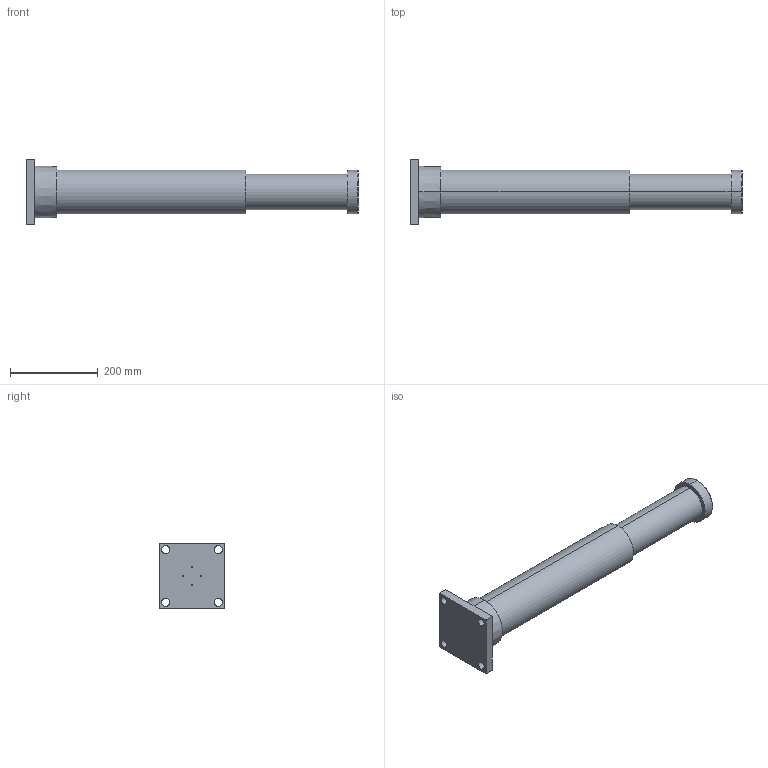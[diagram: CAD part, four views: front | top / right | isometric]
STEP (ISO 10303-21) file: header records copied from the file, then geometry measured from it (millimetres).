
FILE_DESCRIPTION (( 'STEP AP214' ), '1' );
FILE_NAME ('LDH100X200FR.STEP', '2019-01-21T04:57:53', ( 'user' ), ( 'Microsoft' ), 'SwSTEP 2.0', 'SolidWorks 2016', '' );
FILE_SCHEMA (( 'AUTOMOTIVE_DESIGN' ));
Length unit declared in the file: millimetre
Products named in the file (1): LDH100X200FR
Bounding box: 756 x 150 x 150 mm (x, y, z)
Volume: 5695284 mm3; surface area: 284121.8 mm2
Topology: 1 solids, 1 shells, 40 faces, 88 edges, 58 vertices
Faces by surface type: cylinder 22, plane 14, cone 4
Entity records: 1176 total; most frequent: DIRECTION 220, CARTESIAN_POINT 187, ORIENTED_EDGE 176, AXIS2_PLACEMENT_3D 91, EDGE_CURVE 88, VERTEX_POINT 58, EDGE_LOOP 56, CIRCLE 50
